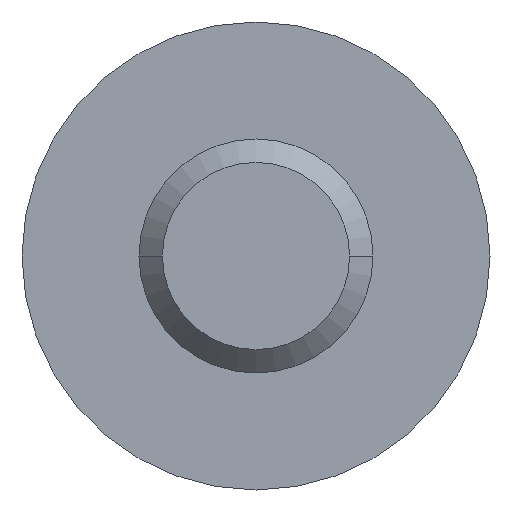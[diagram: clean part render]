
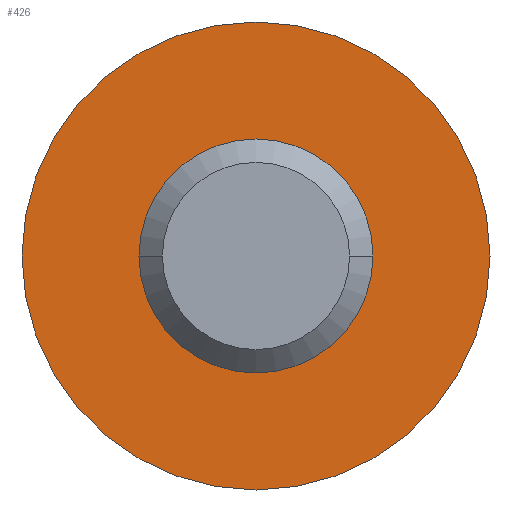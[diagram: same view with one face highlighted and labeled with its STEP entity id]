
A CAD part, front view. The second image highlights one B-rep face of the part: STEP entity #426.
In plain terms, the highlighted planar face has unit normal (0, -1, 0).
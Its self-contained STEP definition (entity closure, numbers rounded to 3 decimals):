
#16=CARTESIAN_POINT('',(0.,0.,0.));
#17=DIRECTION('',(0.,1.,0.));
#18=DIRECTION('',(1.,0.,0.));
#19=AXIS2_PLACEMENT_3D('',#16,#17,#18);
#25=CARTESIAN_POINT('',(0.,0.,0.));
#26=DIRECTION('',(0.,-1.,0.));
#27=DIRECTION('',(1.,0.,0.));
#28=AXIS2_PLACEMENT_3D('',#25,#26,#27);
#100=CARTESIAN_POINT('',(0.,0.,0.));
#101=DIRECTION('',(0.,-1.,0.));
#102=DIRECTION('',(1.,0.,0.));
#103=AXIS2_PLACEMENT_3D('',#100,#101,#102);
#115=CARTESIAN_POINT('',(0.,0.,0.));
#116=DIRECTION('',(0.,1.,0.));
#117=DIRECTION('',(1.,0.,0.));
#118=AXIS2_PLACEMENT_3D('',#115,#116,#117);
#355=CARTESIAN_POINT('',(1.,0.,0.));
#357=VERTEX_POINT('',#355);
#377=CARTESIAN_POINT('',(-1.,0.,0.));
#379=VERTEX_POINT('',#377);
#401=CARTESIAN_POINT('',(0.5,0.,0.));
#402=VERTEX_POINT('',#401);
#407=CARTESIAN_POINT('',(-0.5,0.,0.));
#408=VERTEX_POINT('',#407);
#409=CARTESIAN_POINT('',(0.,0.,0.));
#410=DIRECTION('',(0.,1.,0.));
#411=DIRECTION('',(1.,0.,0.));
#412=AXIS2_PLACEMENT_3D('',#409,#410,#411);
#413=PLANE('',#412);
#415=ORIENTED_EDGE('',*,*,#414,.F.);
#417=ORIENTED_EDGE('',*,*,#416,.T.);
#418=EDGE_LOOP('',(#415,#417));
#419=FACE_OUTER_BOUND('',#418,.F.);
#421=ORIENTED_EDGE('',*,*,#420,.F.);
#423=ORIENTED_EDGE('',*,*,#422,.T.);
#424=EDGE_LOOP('',(#421,#423));
#425=FACE_BOUND('',#424,.F.);
#426=ADVANCED_FACE('',(#419,#425),#413,.F.);
#20=CIRCLE('',#19,0.5);
#29=CIRCLE('',#28,0.5);
#104=CIRCLE('',#103,1.);
#119=CIRCLE('',#118,1.);
#414=EDGE_CURVE('',#357,#379,#104,.T.);
#416=EDGE_CURVE('',#357,#379,#119,.T.);
#420=EDGE_CURVE('',#402,#408,#20,.T.);
#422=EDGE_CURVE('',#402,#408,#29,.T.);
